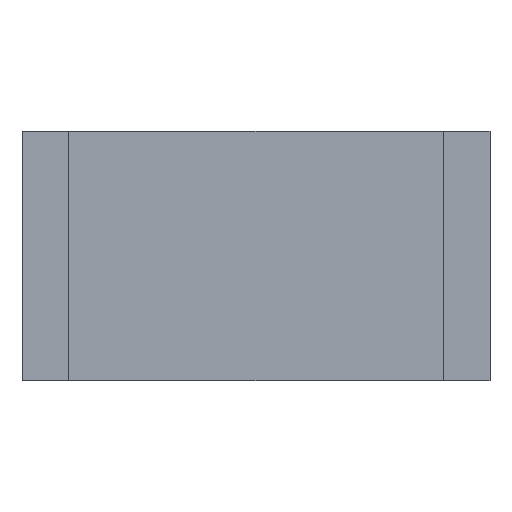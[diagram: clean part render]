
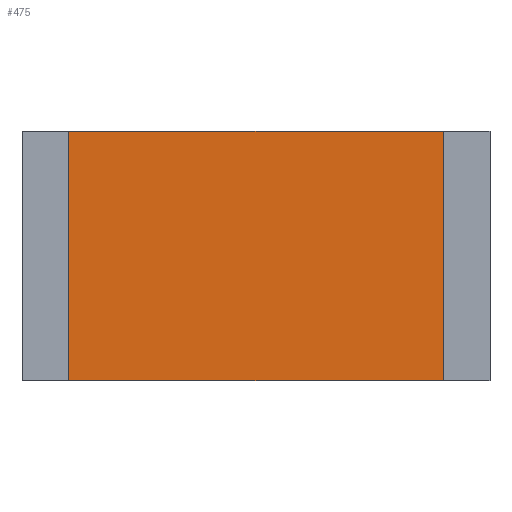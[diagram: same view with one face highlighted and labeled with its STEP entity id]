
A CAD part, top view. The second image highlights one B-rep face of the part: STEP entity #475.
In plain terms, the highlighted planar face has unit normal (0, 0, 1).
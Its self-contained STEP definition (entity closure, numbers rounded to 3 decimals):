
#475=ADVANCED_FACE('',(#916),#918,.T.);
#916=FACE_BOUND('',#917,.T.);
#917=EDGE_LOOP('',(#1227,#1228,#1229,#1230));
#918=PLANE('',#919);
#919=AXIS2_PLACEMENT_3D('',#920,#921,#922);
#920=CARTESIAN_POINT('',(0.,0.,0.35));
#921=DIRECTION('',(0.,0.,1.));
#922=DIRECTION('',(-1.,0.,0.));
#1227=ORIENTED_EDGE('',*,*,#1411,.T.);
#1228=ORIENTED_EDGE('',*,*,#1415,.T.);
#1229=ORIENTED_EDGE('',*,*,#1418,.T.);
#1230=ORIENTED_EDGE('',*,*,#1420,.T.);
#1411=EDGE_CURVE('',#1597,#1595,#1598,.T.);
#1415=EDGE_CURVE('',#1595,#1602,#1604,.T.);
#1418=EDGE_CURVE('',#1602,#1607,#1609,.T.);
#1420=EDGE_CURVE('',#1607,#1597,#1611,.T.);
#1595=VERTEX_POINT('',#1966);
#1597=VERTEX_POINT('',#1970);
#1598=LINE('',#1971,#1972);
#1602=VERTEX_POINT('',#1981);
#1604=LINE('',#1985,#1986);
#1607=VERTEX_POINT('',#1992);
#1609=LINE('',#1996,#1997);
#1611=LINE('',#2002,#2003);
#1966=CARTESIAN_POINT('',(-1.2,0.8,0.35));
#1970=CARTESIAN_POINT('',(1.2,0.8,0.35));
#1971=CARTESIAN_POINT('',(1.2,0.8,0.35));
#1972=VECTOR('',#1973,1.);
#1973=DIRECTION('',(-1.,0.,0.));
#1981=CARTESIAN_POINT('',(-1.2,-0.8,0.35));
#1985=CARTESIAN_POINT('',(-1.2,0.8,0.35));
#1986=VECTOR('',#1987,1.);
#1987=DIRECTION('',(0.,-1.,0.));
#1992=CARTESIAN_POINT('',(1.2,-0.8,0.35));
#1996=CARTESIAN_POINT('',(-1.2,-0.8,0.35));
#1997=VECTOR('',#1998,1.);
#1998=DIRECTION('',(1.,0.,0.));
#2002=CARTESIAN_POINT('',(1.2,-0.8,0.35));
#2003=VECTOR('',#2004,1.);
#2004=DIRECTION('',(0.,1.,0.));
